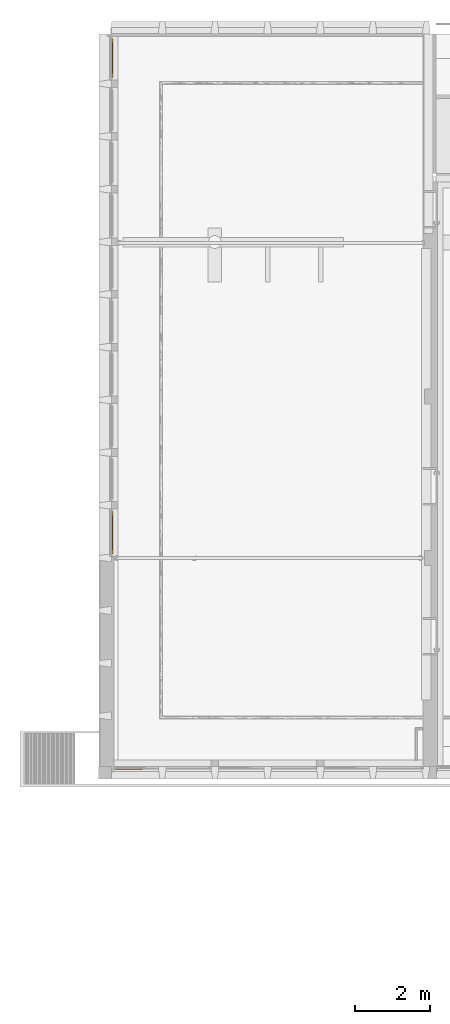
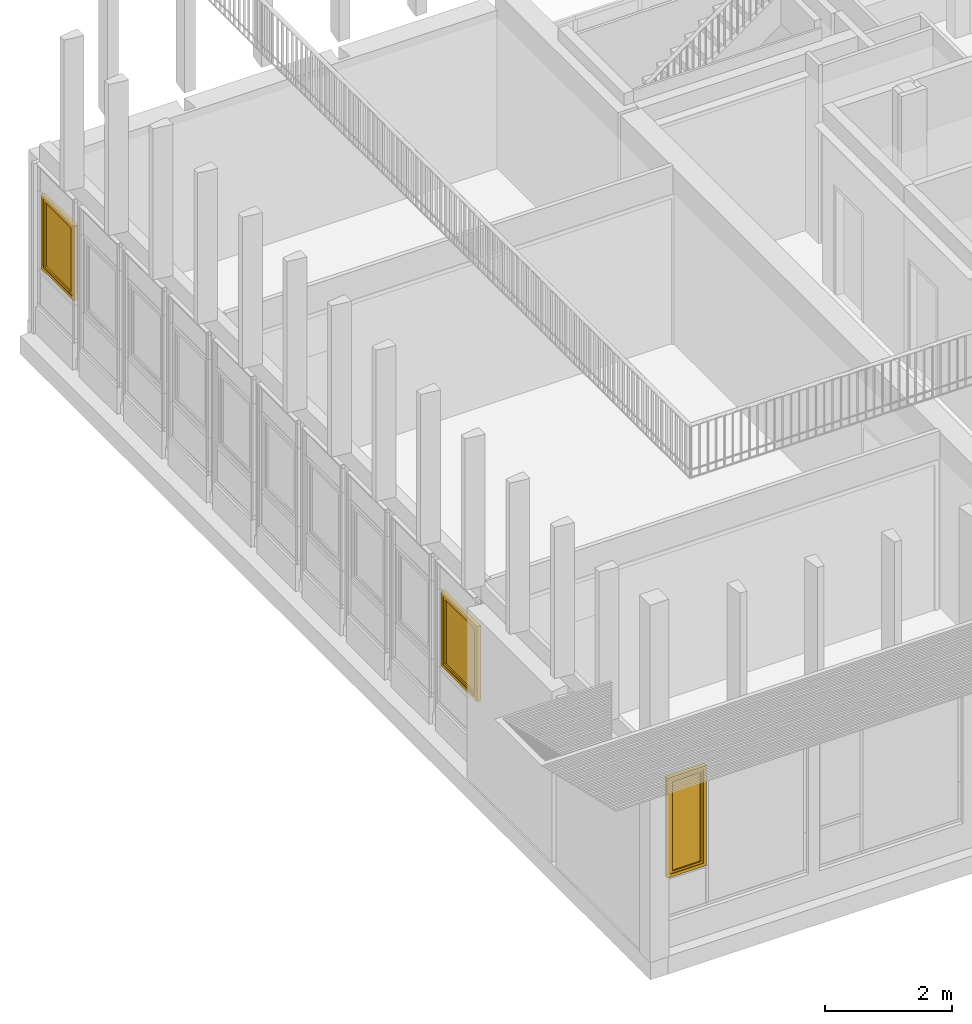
# One storey, part 52 of 65: 3 windows, 3 elements without a shape of their own.
"""IFC4 building model written with IfcOpenShell, lengths in metres."""

from ifc_helpers import new_model, entity, si_unit, converted_unit, derived_unit, direction, frame, origin, place, context, subcontext, project, spatial, polygons, source, transform, mapped, material, material_list, constituent, constituent_set, type_object, type_shapes, element, aggregate, save


model = new_model("IFC4")

# Units and contexts
model_context = context("Model", 3, precision=1e-05, world=origin(), true_north=direction((6.12303176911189e-17, 1.0)))
body_context = subcontext(model_context, "Body", "Model", "MODEL_VIEW")
ifc_project = project(units=[si_unit("LENGTHUNIT", "METRE"), si_unit("AREAUNIT", "SQUARE_METRE"), si_unit("VOLUMEUNIT", "CUBIC_METRE"), converted_unit("PLANEANGLEUNIT", "DEGREE", entity("IfcRatioMeasure", 0.0174532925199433), si_unit("PLANEANGLEUNIT", "RADIAN"), dimensions=[0, 0, 0, 0, 0, 0, 0]), si_unit("MASSUNIT", "GRAM", prefix="KILO"), derived_unit("MASSDENSITYUNIT", [(si_unit("MASSUNIT", "GRAM", prefix="KILO"), 1), (si_unit("LENGTHUNIT", "METRE"), -3)]), derived_unit("MOMENTOFINERTIAUNIT", [(si_unit("LENGTHUNIT", "METRE"), 4)]), si_unit("TIMEUNIT", "SECOND"), si_unit("FREQUENCYUNIT", "HERTZ"), si_unit("THERMODYNAMICTEMPERATUREUNIT", "DEGREE_CELSIUS"), derived_unit("THERMALTRANSMITTANCEUNIT", [(si_unit("MASSUNIT", "GRAM", prefix="KILO"), 1), (si_unit("THERMODYNAMICTEMPERATUREUNIT", "KELVIN"), -1), (si_unit("TIMEUNIT", "SECOND"), -3)]), derived_unit("VOLUMETRICFLOWRATEUNIT", [(si_unit("LENGTHUNIT", "METRE"), 3), (si_unit("TIMEUNIT", "SECOND"), -1)]), si_unit("ELECTRICCURRENTUNIT", "AMPERE"), si_unit("ELECTRICVOLTAGEUNIT", "VOLT"), si_unit("POWERUNIT", "WATT"), si_unit("FORCEUNIT", "NEWTON", prefix="KILO"), si_unit("ILLUMINANCEUNIT", "LUX"), si_unit("LUMINOUSFLUXUNIT", "LUMEN"), si_unit("LUMINOUSINTENSITYUNIT", "CANDELA"), derived_unit("USERDEFINED", [(si_unit("MASSUNIT", "GRAM", prefix="KILO"), -1), (si_unit("LENGTHUNIT", "METRE"), -2), (si_unit("TIMEUNIT", "SECOND"), 3), (si_unit("LUMINOUSFLUXUNIT", "LUMEN"), 1)]), derived_unit("LINEARVELOCITYUNIT", [(si_unit("LENGTHUNIT", "METRE"), 1), (si_unit("TIMEUNIT", "SECOND"), -1)]), si_unit("PRESSUREUNIT", "PASCAL"), derived_unit("USERDEFINED", [(si_unit("LENGTHUNIT", "METRE"), -2), (si_unit("MASSUNIT", "GRAM", prefix="KILO"), 1), (si_unit("TIMEUNIT", "SECOND"), -2)]), derived_unit("LINEARFORCEUNIT", [(si_unit("MASSUNIT", "GRAM", prefix="KILO"), 1), (si_unit("LENGTHUNIT", "METRE"), 1), (si_unit("TIMEUNIT", "SECOND"), -2), (si_unit("LENGTHUNIT", "METRE"), -1)]), derived_unit("PLANARFORCEUNIT", [(si_unit("MASSUNIT", "GRAM", prefix="KILO"), 1), (si_unit("LENGTHUNIT", "METRE"), 1), (si_unit("TIMEUNIT", "SECOND"), -2), (si_unit("LENGTHUNIT", "METRE"), -2)])], contexts=[model_context])

# Site, building, storey
site_placement = place(None, origin())
site = spatial("IfcSite", under=ifc_project, at=site_placement, Name="Default", CompositionType="ELEMENT")
building_placement = place(site_placement, origin())
building = spatial("IfcBuilding", under=site, at=building_placement, Name="HOTEL CONSULAIRE BOULOGNE SUR MER", CompositionType="ELEMENT")
storey_placement = place(building_placement, origin())
storey = spatial("IfcBuildingStorey", under=building, at=storey_placement, Name="Niveau 0", CompositionType="ELEMENT", Elevation=1.31981936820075e-13)

# Curtain wall, window
curtain_wall_type = type_object("IfcCurtainWallType", Name="Mur-rideau:Simple panneau", PredefinedType="NOTDEFINED")
curtain_wall_1_placement = place(storey_placement, origin())
curtain_wall_1 = element("IfcCurtainWall", 1, at=curtain_wall_1_placement, inside=storey, type_object=curtain_wall_type, Name="Mur-rideau:Simple panneau", ObjectType="Mur-rideau:Simple panneau", PredefinedType="NOTDEFINED")
ifc_material_1 = material(Name="PVC - Blanc", Category="Plastique")
ifc_constituent_1 = constituent(ifc_material_1, Name="PVC - Blanc", Category="Matériaux")
ifc_material_2 = material(Name="Fenêtre - Vitrage", Category="Verre")
ifc_constituent_2 = constituent(ifc_material_2, Name="Fenêtre - Vitrage", Category="Matériaux")
ifc_constituent_set_1 = constituent_set(constituents=[ifc_constituent_1, ifc_constituent_2], Name="MaterialConstituentSet")
ifc_material_list_1 = material_list([ifc_material_1, ifc_material_1])
window_type_1 = type_object("IfcWindowType", Name="MR 1 Vantail:MR 1 Vantail", PartitioningType="NOTDEFINED", PredefinedType="WINDOW", material=ifc_material_list_1)
shared_shape_1 = source(origin(), body_context, "Body", "Tessellation", [
    polygons([(-0.492446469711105, -0.0492408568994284, 0.472033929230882), (-0.481154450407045, -0.0492408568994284, 0.472033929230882), (-0.479766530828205, -0.0492408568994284, 0.470646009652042), (-0.479766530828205, -0.0492408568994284, 0.459332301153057), (-0.481132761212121, -0.0492408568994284, 0.457966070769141), (-0.49246815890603, -0.0492408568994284, 0.457966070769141), (-0.493834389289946, -0.0492408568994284, 0.459332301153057), (-0.493834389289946, -0.0492408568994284, 0.470646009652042), (-0.493834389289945, -0.0615795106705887, 0.470646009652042), (-0.492446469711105, -0.0621544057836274, 0.472033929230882), (-0.493834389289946, -0.0568932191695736, 0.459332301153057), (-0.493834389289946, -0.063573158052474, 0.452652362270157), (-0.493834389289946, -0.0635731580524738, 0.370000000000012), (-0.493834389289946, -0.0748868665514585, 0.370000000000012), (-0.493834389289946, -0.0748868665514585, 0.457338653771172), (-0.49246815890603, -0.0563273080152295, 0.457966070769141), (-0.481132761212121, -0.0563273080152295, 0.457966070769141), (-0.479766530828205, -0.0568932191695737, 0.459332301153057), (-0.479766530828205, -0.0615795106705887, 0.470646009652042), (-0.479766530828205, -0.0748868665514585, 0.457338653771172), (-0.479766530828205, -0.0748868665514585, 0.370000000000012), (-0.479766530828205, -0.0635731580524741, 0.370000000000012), (-0.479766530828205, -0.0635731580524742, 0.452652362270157), (-0.481154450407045, -0.0621544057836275, 0.472033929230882), (-0.492446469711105, -0.0762747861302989, 0.457913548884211), (-0.49246815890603, -0.0622069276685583, 0.452086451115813), (-0.481132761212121, -0.0622069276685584, 0.452086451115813), (-0.481154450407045, -0.0762747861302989, 0.457913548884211), (-0.492446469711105, -0.0762747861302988, 0.370000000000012), (-0.49246815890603, -0.0622069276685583, 0.370000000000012), (-0.481132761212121, -0.0622069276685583, 0.370000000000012), (-0.481154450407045, -0.0762747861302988, 0.370000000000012)], [[[6, 7, 8, 1, 2, 3, 4, 5]], [[30, 26, 27, 31]], [[9, 10, 1, 8]], [[11, 12, 13, 14, 15, 9, 8, 7]], [[16, 11, 7, 6]], [[16, 6, 5, 17]], [[31, 22, 21, 32, 29, 14, 13, 30]], [[17, 5, 4, 18]], [[3, 19, 20, 21, 22, 23, 18, 4]], [[19, 3, 2, 24]], [[24, 2, 1, 10]], [[15, 25, 10, 9]], [[26, 12, 11, 16]], [[27, 26, 16, 17]], [[27, 17, 18, 23]], [[20, 19, 24, 28]], [[28, 24, 10, 25]], [[29, 25, 15, 14]], [[13, 12, 26, 30]], [[22, 31, 27, 23]], [[32, 21, 20, 28]], [[32, 28, 25, 29]]], closed=True),
    polygons([(-0.493800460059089, -0.0432408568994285, 0.490000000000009), (-0.479800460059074, -0.0432408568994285, 0.490000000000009), (-0.474800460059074, -0.0432408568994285, 0.48500000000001), (-0.474800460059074, -0.0432408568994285, 0.414999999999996), (-0.479800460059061, -0.0432408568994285, 0.410000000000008), (-0.493800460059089, -0.0432408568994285, 0.410000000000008), (-0.498800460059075, -0.0432408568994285, 0.414999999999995), (-0.498800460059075, -0.0432408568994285, 0.48500000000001), (-0.493800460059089, -0.0492408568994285, 0.490000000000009), (-0.498800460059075, -0.0492408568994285, 0.48500000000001), (-0.498800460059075, -0.0492408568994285, 0.414999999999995), (-0.493800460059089, -0.0492408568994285, 0.410000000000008), (-0.479800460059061, -0.0492408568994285, 0.410000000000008), (-0.474800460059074, -0.0492408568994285, 0.414999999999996), (-0.474800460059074, -0.0492408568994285, 0.48500000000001), (-0.479800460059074, -0.0492408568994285, 0.490000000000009)], [[[2, 3, 4, 5, 6, 7, 8, 1]], [[13, 14, 15, 16, 9, 10, 11, 12]], [[9, 1, 8, 10]], [[10, 8, 7, 11]], [[11, 7, 6, 12]], [[12, 6, 5, 13]], [[13, 5, 4, 14]], [[15, 14, 4, 3]], [[15, 3, 2, 16]], [[16, 2, 1, 9]]], closed=True),
    polygons([(0.46180046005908, -0.0192408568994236, 1.334), (-0.46180046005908, -0.0192408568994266, 1.334), (-0.46180046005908, -0.0192408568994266, 0.1), (0.46180046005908, -0.0192408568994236, 0.1), (0.46180046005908, -0.00724085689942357, 1.334), (0.46180046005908, -0.00724085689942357, 0.1), (-0.46180046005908, -0.00724085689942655, 0.1), (-0.46180046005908, -0.00724085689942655, 1.334)], [[[4, 1, 2, 3]], [[7, 8, 5, 6]], [[2, 1, 5, 8]], [[3, 2, 8, 7]], [[4, 3, 7, 6]], [[1, 4, 6, 5]]], closed=True),
    polygons([(-0.51180046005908, 0.0167591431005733, 1.384), (-0.51180046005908, -0.043240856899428, 1.384), (0.51180046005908, -0.043240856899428, 1.384), (0.511800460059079, 0.0167591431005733, 1.384), (-0.46180046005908, -0.043240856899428, 1.334), (-0.46180046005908, 0.0167591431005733, 1.334), (0.46180046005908, 0.0167591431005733, 1.334), (0.46180046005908, -0.043240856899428, 1.334), (0.51180046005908, -0.043240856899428, 0.0500000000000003), (0.51180046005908, 0.0167591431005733, 0.0500000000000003), (0.46180046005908, 0.0167591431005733, 0.1), (0.46180046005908, -0.043240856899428, 0.1), (-0.51180046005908, -0.043240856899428, 0.0500000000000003), (-0.51180046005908, 0.0167591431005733, 0.0500000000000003), (-0.46180046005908, 0.0167591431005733, 0.1), (-0.46180046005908, -0.043240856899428, 0.1)], [[[1, 2, 3, 4]], [[12, 11, 15, 16]], [[5, 6, 7, 8]], [[10, 9, 13, 14]], [[4, 3, 9, 10]], [[16, 15, 6, 5]], [[8, 7, 11, 12]], [[14, 13, 2, 1]], [[9, 3, 2, 13], [16, 5, 8, 12]], [[14, 1, 4, 10], [11, 7, 6, 15]]], closed=True),
    polygons([(-0.50180046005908, 0.016759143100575, 1.374), (-0.50180046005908, 0.0267591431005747, 1.374), (0.50180046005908, 0.0267591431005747, 1.374), (0.50180046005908, 0.016759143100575, 1.374), (-0.511800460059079, -0.0432408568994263, 1.384), (-0.511800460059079, 0.016759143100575, 1.384), (0.511800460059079, 0.016759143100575, 1.384), (0.511800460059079, -0.0432408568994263, 1.384), (-0.561800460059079, 0.0267591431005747, 1.434), (-0.561800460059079, -0.0432408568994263, 1.434), (0.561800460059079, -0.0432408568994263, 1.434), (0.561800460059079, 0.0267591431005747, 1.434), (0.50180046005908, 0.0267591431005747, 0.0600000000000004), (0.50180046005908, 0.016759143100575, 0.0600000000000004), (0.511800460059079, 0.016759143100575, 0.0500000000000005), (0.511800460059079, -0.0432408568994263, 0.0500000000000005), (0.561800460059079, -0.0432408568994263, 5.41433564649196e-16), (0.561800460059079, 0.0267591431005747, 5.41433564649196e-16), (-0.50180046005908, 0.0267591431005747, 0.0600000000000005), (-0.50180046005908, 0.016759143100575, 0.0600000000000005), (-0.511800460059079, 0.016759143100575, 0.0500000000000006), (-0.511800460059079, -0.0432408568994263, 0.0500000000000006), (-0.561800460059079, -0.0432408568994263, 5.41433564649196e-16), (-0.561800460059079, 0.0267591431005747, 5.41433564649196e-16)], [[[1, 2, 3, 4]], [[5, 6, 7, 8]], [[18, 17, 23, 24]], [[9, 10, 11, 12]], [[14, 13, 19, 20]], [[16, 15, 21, 22]], [[4, 3, 13, 14]], [[8, 7, 15, 16]], [[24, 23, 10, 9]], [[12, 11, 17, 18]], [[20, 19, 2, 1]], [[22, 21, 6, 5]], [[24, 9, 12, 18], [13, 3, 2, 19]], [[15, 7, 6, 21], [20, 1, 4, 14]], [[17, 11, 10, 23], [22, 5, 8, 16]]], closed=True),
])
type_shapes(window_type_1, [shared_shape_1])
window_1_placement = place(curtain_wall_1_placement, frame((-13.7900998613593, -23.3432503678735, 1.0419999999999), z_axis=(0.0, 0.0, 1.0), x_axis=(0.0, 1.0, 0.0)))
window_1 = element("IfcWindow", 2, at=window_1_placement, type_object=window_type_1, material=ifc_constituent_set_1, Name="MR 1 Vantail:MR 1 Vantail", ObjectType="MR 1 Vantail:MR 1 Vantail", OverallHeight=1.434, OverallWidth=1.12360092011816, PartitioningType="NOTDEFINED", PredefinedType="WINDOW", context=body_context, shape_type="MappedRepresentation", body=[
    mapped(shared_shape_1, transform((0.0, 0.0, 0.0), scale=1.0)),
])
aggregate(curtain_wall_1, [window_1])

curtain_wall_2_placement = place(storey_placement, origin())
curtain_wall_2 = element("IfcCurtainWall", 3, at=curtain_wall_2_placement, inside=storey, type_object=curtain_wall_type, Name="Mur-rideau:Simple panneau", ObjectType="Mur-rideau:Simple panneau", PredefinedType="NOTDEFINED")
ifc_constituent_3 = constituent(ifc_material_1, Name="PVC - Blanc", Category="Matériaux")
ifc_constituent_4 = constituent(ifc_material_2, Name="Fenêtre - Vitrage", Category="Matériaux")
ifc_constituent_set_2 = constituent_set(constituents=[ifc_constituent_3, ifc_constituent_4], Name="MaterialConstituentSet")
ifc_material_list_2 = material_list([ifc_material_1, ifc_material_1])
window_type_2 = type_object("IfcWindowType", Name="MR 1 Vantail:MR 1 Vantail", PartitioningType="NOTDEFINED", PredefinedType="WINDOW", material=ifc_material_list_2)
shared_shape_2 = source(origin(), body_context, "Body", "Tessellation", [
    polygons([(-0.441208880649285, -0.0492408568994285, 0.472033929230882), (-0.429916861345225, -0.0492408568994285, 0.472033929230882), (-0.428528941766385, -0.0492408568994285, 0.470646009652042), (-0.428528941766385, -0.0492408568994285, 0.459332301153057), (-0.4298951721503, -0.0492408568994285, 0.457966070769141), (-0.44123056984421, -0.0492408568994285, 0.457966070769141), (-0.442596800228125, -0.0492408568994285, 0.459332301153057), (-0.442596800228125, -0.0492408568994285, 0.470646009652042), (-0.442596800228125, -0.0615795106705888, 0.470646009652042), (-0.441208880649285, -0.0621544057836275, 0.472033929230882), (-0.442596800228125, -0.0568932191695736, 0.459332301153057), (-0.442596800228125, -0.0635731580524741, 0.452652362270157), (-0.442596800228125, -0.0635731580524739, 0.370000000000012), (-0.442596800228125, -0.0748868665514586, 0.370000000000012), (-0.442596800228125, -0.0748868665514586, 0.457338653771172), (-0.44123056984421, -0.0563273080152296, 0.457966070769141), (-0.4298951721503, -0.0563273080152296, 0.457966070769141), (-0.428528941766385, -0.0568932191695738, 0.459332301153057), (-0.428528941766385, -0.0615795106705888, 0.470646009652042), (-0.428528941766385, -0.0748868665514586, 0.457338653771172), (-0.428528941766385, -0.0748868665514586, 0.370000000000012), (-0.428528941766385, -0.0635731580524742, 0.370000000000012), (-0.428528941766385, -0.0635731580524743, 0.452652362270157), (-0.429916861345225, -0.0621544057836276, 0.472033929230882), (-0.441208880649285, -0.076274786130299, 0.457913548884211), (-0.44123056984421, -0.0622069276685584, 0.452086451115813), (-0.4298951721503, -0.0622069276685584, 0.452086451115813), (-0.429916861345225, -0.0762747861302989, 0.457913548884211), (-0.441208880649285, -0.0762747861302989, 0.370000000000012), (-0.44123056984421, -0.0622069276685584, 0.370000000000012), (-0.4298951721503, -0.0622069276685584, 0.370000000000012), (-0.429916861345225, -0.0762747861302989, 0.370000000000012)], [[[6, 7, 8, 1, 2, 3, 4, 5]], [[30, 26, 27, 31]], [[9, 10, 1, 8]], [[11, 12, 13, 14, 15, 9, 8, 7]], [[16, 11, 7, 6]], [[16, 6, 5, 17]], [[31, 22, 21, 32, 29, 14, 13, 30]], [[17, 5, 4, 18]], [[3, 19, 20, 21, 22, 23, 18, 4]], [[19, 3, 2, 24]], [[24, 2, 1, 10]], [[15, 25, 10, 9]], [[26, 12, 11, 16]], [[27, 26, 16, 17]], [[27, 17, 18, 23]], [[20, 19, 24, 28]], [[28, 24, 10, 25]], [[29, 25, 15, 14]], [[13, 12, 26, 30]], [[22, 31, 27, 23]], [[32, 21, 20, 28]], [[32, 28, 25, 29]]], closed=True),
    polygons([(-0.442562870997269, -0.0432408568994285, 0.490000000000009), (-0.428562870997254, -0.0432408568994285, 0.490000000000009), (-0.423562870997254, -0.0432408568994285, 0.48500000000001), (-0.423562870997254, -0.0432408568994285, 0.414999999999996), (-0.428562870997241, -0.0432408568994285, 0.410000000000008), (-0.442562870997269, -0.0432408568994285, 0.410000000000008), (-0.447562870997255, -0.0432408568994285, 0.414999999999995), (-0.447562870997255, -0.0432408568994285, 0.48500000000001), (-0.442562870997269, -0.0492408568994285, 0.490000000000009), (-0.447562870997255, -0.0492408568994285, 0.48500000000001), (-0.447562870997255, -0.0492408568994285, 0.414999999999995), (-0.442562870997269, -0.0492408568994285, 0.410000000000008), (-0.428562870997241, -0.0492408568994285, 0.410000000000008), (-0.423562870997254, -0.0492408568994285, 0.414999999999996), (-0.423562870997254, -0.0492408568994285, 0.48500000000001), (-0.428562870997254, -0.0492408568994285, 0.490000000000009)], [[[2, 3, 4, 5, 6, 7, 8, 1]], [[13, 14, 15, 16, 9, 10, 11, 12]], [[9, 1, 8, 10]], [[10, 8, 7, 11]], [[11, 7, 6, 12]], [[12, 6, 5, 13]], [[13, 5, 4, 14]], [[15, 14, 4, 3]], [[15, 3, 2, 16]], [[16, 2, 1, 9]]], closed=True),
    polygons([(0.410562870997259, -0.0192408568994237, 1.334), (-0.41056287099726, -0.0192408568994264, 1.334), (-0.41056287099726, -0.0192408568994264, 0.1), (0.410562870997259, -0.0192408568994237, 0.1), (0.410562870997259, -0.00724085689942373, 1.334), (0.410562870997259, -0.00724085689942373, 0.1), (-0.41056287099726, -0.00724085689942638, 0.1), (-0.41056287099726, -0.00724085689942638, 1.334)], [[[4, 1, 2, 3]], [[7, 8, 5, 6]], [[2, 1, 5, 8]], [[3, 2, 8, 7]], [[4, 3, 7, 6]], [[1, 4, 6, 5]]], closed=True),
    polygons([(-0.46056287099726, 0.0167591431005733, 1.384), (-0.46056287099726, -0.043240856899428, 1.384), (0.460562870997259, -0.043240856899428, 1.384), (0.460562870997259, 0.0167591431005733, 1.384), (-0.41056287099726, -0.043240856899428, 1.334), (-0.41056287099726, 0.0167591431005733, 1.334), (0.41056287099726, 0.0167591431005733, 1.334), (0.41056287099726, -0.043240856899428, 1.334), (0.460562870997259, -0.043240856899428, 0.0500000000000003), (0.460562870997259, 0.0167591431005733, 0.0500000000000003), (0.41056287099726, 0.0167591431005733, 0.1), (0.41056287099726, -0.043240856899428, 0.1), (-0.46056287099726, -0.043240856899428, 0.0500000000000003), (-0.460562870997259, 0.0167591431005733, 0.0500000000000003), (-0.41056287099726, 0.0167591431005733, 0.1), (-0.41056287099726, -0.043240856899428, 0.1)], [[[1, 2, 3, 4]], [[12, 11, 15, 16]], [[5, 6, 7, 8]], [[10, 9, 13, 14]], [[4, 3, 9, 10]], [[16, 15, 6, 5]], [[8, 7, 11, 12]], [[14, 13, 2, 1]], [[9, 3, 2, 13], [16, 5, 8, 12]], [[14, 1, 4, 10], [11, 7, 6, 15]]], closed=True),
    polygons([(-0.450562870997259, 0.016759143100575, 1.374), (-0.450562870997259, 0.0267591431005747, 1.374), (0.450562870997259, 0.0267591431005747, 1.374), (0.450562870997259, 0.016759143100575, 1.374), (-0.460562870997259, -0.0432408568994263, 1.384), (-0.460562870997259, 0.016759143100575, 1.384), (0.460562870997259, 0.016759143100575, 1.384), (0.460562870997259, -0.0432408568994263, 1.384), (-0.510562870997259, 0.0267591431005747, 1.434), (-0.510562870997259, -0.0432408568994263, 1.434), (0.510562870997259, -0.0432408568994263, 1.434), (0.510562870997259, 0.0267591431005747, 1.434), (0.450562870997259, 0.0267591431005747, 0.0600000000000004), (0.450562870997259, 0.016759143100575, 0.0600000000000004), (0.460562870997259, 0.016759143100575, 0.0500000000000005), (0.460562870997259, -0.0432408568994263, 0.0500000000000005), (0.510562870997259, -0.0432408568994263, 5.41433564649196e-16), (0.510562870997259, 0.0267591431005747, 5.41433564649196e-16), (-0.450562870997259, 0.0267591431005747, 0.0600000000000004), (-0.450562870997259, 0.016759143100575, 0.0600000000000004), (-0.460562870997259, 0.016759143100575, 0.0500000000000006), (-0.460562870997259, -0.0432408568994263, 0.0500000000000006), (-0.510562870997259, -0.0432408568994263, 5.41433564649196e-16), (-0.510562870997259, 0.0267591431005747, 5.41433564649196e-16)], [[[1, 2, 3, 4]], [[5, 6, 7, 8]], [[18, 17, 23, 24]], [[9, 10, 11, 12]], [[14, 13, 19, 20]], [[16, 15, 21, 22]], [[4, 3, 13, 14]], [[8, 7, 15, 16]], [[24, 23, 10, 9]], [[12, 11, 17, 18]], [[20, 19, 2, 1]], [[22, 21, 6, 5]], [[24, 9, 12, 18], [13, 3, 2, 19]], [[15, 7, 6, 21], [20, 1, 4, 14]], [[17, 11, 10, 23], [22, 5, 8, 16]]], closed=True),
])
type_shapes(window_type_2, [shared_shape_2])
window_2_placement = place(curtain_wall_2_placement, frame((-13.7900998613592, -10.7308870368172, 1.0419999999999), z_axis=(0.0, 0.0, 1.0), x_axis=(0.0, 1.0, 0.0)))
window_2 = element("IfcWindow", 4, at=window_2_placement, type_object=window_type_2, material=ifc_constituent_set_2, Name="MR 1 Vantail:MR 1 Vantail", ObjectType="MR 1 Vantail:MR 1 Vantail", OverallHeight=1.434, OverallWidth=1.02112574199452, PartitioningType="NOTDEFINED", PredefinedType="WINDOW", context=body_context, shape_type="MappedRepresentation", body=[
    mapped(shared_shape_2, transform((0.0, 0.0, 0.0), scale=1.0)),
])
aggregate(curtain_wall_2, [window_2])

curtain_wall_3_placement = place(storey_placement, origin())
curtain_wall_3 = element("IfcCurtainWall", 5, at=curtain_wall_3_placement, inside=storey, type_object=curtain_wall_type, Name="Mur-rideau:Simple panneau", ObjectType="Mur-rideau:Simple panneau", PredefinedType="NOTDEFINED")
ifc_constituent_5 = constituent(ifc_material_1, Name="PVC - Blanc", Category="Matériaux")
ifc_constituent_6 = constituent(ifc_material_2, Name="Fenêtre - Vitrage", Category="Matériaux")
ifc_constituent_set_3 = constituent_set(constituents=[ifc_constituent_5, ifc_constituent_6], Name="MaterialConstituentSet")
ifc_material_list_3 = material_list([ifc_material_1, ifc_material_1])
window_type_3 = type_object("IfcWindowType", Name="MR 1 Vantail:MR 1 Vantail", PartitioningType="NOTDEFINED", PredefinedType="WINDOW", material=ifc_material_list_3)
shared_shape_3 = source(origin(), body_context, "Body", "Tessellation", [
    polygons([(-0.287830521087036, 0.0492408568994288, 0.472033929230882), (-0.289218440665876, 0.0492408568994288, 0.470646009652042), (-0.289218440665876, 0.0492408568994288, 0.459332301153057), (-0.287852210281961, 0.0492408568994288, 0.457966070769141), (-0.276516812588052, 0.0492408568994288, 0.457966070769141), (-0.275150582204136, 0.0492408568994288, 0.459332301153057), (-0.275150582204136, 0.0492408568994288, 0.470646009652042), (-0.276538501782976, 0.0492408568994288, 0.472033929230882), (-0.287830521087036, 0.0621544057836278, 0.472033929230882), (-0.289218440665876, 0.061579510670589, 0.470646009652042), (-0.289218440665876, 0.0748868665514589, 0.457338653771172), (-0.289218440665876, 0.0748868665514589, 0.370000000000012), (-0.289218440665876, 0.0635731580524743, 0.370000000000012), (-0.289218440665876, 0.0635731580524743, 0.452652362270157), (-0.289218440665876, 0.0568932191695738, 0.459332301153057), (-0.287852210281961, 0.0563273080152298, 0.457966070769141), (-0.276516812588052, 0.0563273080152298, 0.457966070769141), (-0.275150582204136, 0.0568932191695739, 0.459332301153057), (-0.275150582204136, 0.0635731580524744, 0.452652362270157), (-0.275150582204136, 0.0635731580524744, 0.370000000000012), (-0.275150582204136, 0.0748868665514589, 0.370000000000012), (-0.275150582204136, 0.0748868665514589, 0.457338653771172), (-0.275150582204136, 0.061579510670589, 0.470646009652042), (-0.276538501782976, 0.0621544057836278, 0.472033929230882), (-0.287830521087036, 0.0762747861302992, 0.457913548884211), (-0.287852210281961, 0.0622069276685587, 0.452086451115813), (-0.276516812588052, 0.0622069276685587, 0.452086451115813), (-0.276538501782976, 0.0762747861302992, 0.457913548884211), (-0.287830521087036, 0.0762747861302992, 0.370000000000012), (-0.276538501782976, 0.0762747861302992, 0.370000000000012), (-0.276516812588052, 0.0622069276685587, 0.370000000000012), (-0.287852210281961, 0.0622069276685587, 0.370000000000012)], [[[5, 6, 7, 8, 1, 2, 3, 4]], [[27, 26, 32, 31]], [[2, 1, 9, 10]], [[2, 10, 11, 12, 13, 14, 15, 3]], [[4, 3, 15, 16]], [[5, 4, 16, 17]], [[32, 13, 12, 29, 30, 21, 20, 31]], [[6, 5, 17, 18]], [[6, 18, 19, 20, 21, 22, 23, 7]], [[8, 7, 23, 24]], [[1, 8, 24, 9]], [[10, 9, 25, 11]], [[16, 15, 14, 26]], [[17, 16, 26, 27]], [[18, 17, 27, 19]], [[24, 23, 22, 28]], [[9, 24, 28, 25]], [[11, 25, 29, 12]], [[26, 14, 13, 32]], [[19, 27, 31, 20]], [[28, 22, 21, 30]], [[25, 28, 30, 29]]], closed=True),
    polygons([(-0.28918451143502, 0.0432408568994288, 0.490000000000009), (-0.294184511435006, 0.0432408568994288, 0.48500000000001), (-0.294184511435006, 0.0432408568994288, 0.414999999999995), (-0.28918451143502, 0.0432408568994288, 0.410000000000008), (-0.275184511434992, 0.0432408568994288, 0.410000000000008), (-0.270184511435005, 0.0432408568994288, 0.414999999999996), (-0.270184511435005, 0.0432408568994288, 0.48500000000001), (-0.275184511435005, 0.0432408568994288, 0.490000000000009), (-0.28918451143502, 0.0492408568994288, 0.490000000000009), (-0.275184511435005, 0.0492408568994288, 0.490000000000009), (-0.270184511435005, 0.0492408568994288, 0.48500000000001), (-0.270184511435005, 0.0492408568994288, 0.414999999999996), (-0.275184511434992, 0.0492408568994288, 0.410000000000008), (-0.28918451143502, 0.0492408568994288, 0.410000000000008), (-0.294184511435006, 0.0492408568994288, 0.414999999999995), (-0.294184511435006, 0.0492408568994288, 0.48500000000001)], [[[1, 2, 3, 4, 5, 6, 7, 8]], [[14, 15, 16, 9, 10, 11, 12, 13]], [[2, 1, 9, 16]], [[3, 2, 16, 15]], [[4, 3, 15, 14]], [[5, 4, 14, 13]], [[6, 5, 13, 12]], [[7, 6, 12, 11]], [[8, 7, 11, 10]], [[1, 8, 10, 9]]], closed=True),
    polygons([(0.257184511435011, 0.0192408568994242, 1.816), (0.257184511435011, 0.0192408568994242, 0.0999999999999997), (-0.257184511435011, 0.0192408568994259, 0.0999999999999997), (-0.257184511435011, 0.0192408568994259, 1.816), (0.257184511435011, 0.00724085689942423, 1.816), (-0.257184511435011, 0.00724085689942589, 1.816), (-0.257184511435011, 0.00724085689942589, 0.0999999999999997), (0.257184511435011, 0.00724085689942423, 0.0999999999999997)], [[[4, 1, 2, 3]], [[5, 6, 7, 8]], [[5, 1, 4, 6]], [[6, 4, 3, 7]], [[7, 3, 2, 8]], [[8, 2, 1, 5]]], closed=True),
    polygons([(-0.307184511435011, -0.0167591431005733, 1.866), (0.307184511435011, -0.0167591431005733, 1.866), (0.307184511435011, 0.043240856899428, 1.866), (-0.307184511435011, 0.043240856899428, 1.866), (-0.257184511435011, 0.043240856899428, 1.816), (0.257184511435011, 0.043240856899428, 1.816), (0.257184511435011, -0.0167591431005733, 1.816), (-0.257184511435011, -0.0167591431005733, 1.816), (0.307184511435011, -0.0167591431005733, 0.05), (0.307184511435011, 0.043240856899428, 0.05), (0.257184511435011, 0.043240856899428, 0.0999999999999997), (0.257184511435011, -0.0167591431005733, 0.0999999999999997), (-0.307184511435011, -0.0167591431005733, 0.05), (-0.307184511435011, 0.043240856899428, 0.05), (-0.257184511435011, 0.043240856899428, 0.0999999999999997), (-0.257184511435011, -0.0167591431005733, 0.0999999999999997)], [[[2, 3, 4, 1]], [[15, 16, 12, 11]], [[6, 7, 8, 5]], [[14, 10, 9, 13]], [[9, 10, 3, 2]], [[5, 8, 16, 15]], [[11, 12, 7, 6]], [[1, 4, 14, 13]], [[10, 14, 4, 3], [15, 11, 6, 5]], [[13, 9, 2, 1], [12, 16, 8, 7]]], closed=True),
    polygons([(-0.297184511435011, -0.016759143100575, 1.856), (0.297184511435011, -0.016759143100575, 1.856), (0.297184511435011, -0.0267591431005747, 1.856), (-0.297184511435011, -0.0267591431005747, 1.856), (-0.30718451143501, 0.0432408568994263, 1.866), (0.30718451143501, 0.0432408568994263, 1.866), (0.30718451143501, -0.016759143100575, 1.866), (-0.30718451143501, -0.016759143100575, 1.866), (-0.35718451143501, -0.0267591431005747, 1.916), (0.35718451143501, -0.0267591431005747, 1.916), (0.35718451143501, 0.0432408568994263, 1.916), (-0.35718451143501, 0.0432408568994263, 1.916), (0.29718451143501, -0.016759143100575, 0.0600000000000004), (0.29718451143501, -0.0267591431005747, 0.0600000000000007), (0.30718451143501, 0.0432408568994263, 0.0500000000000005), (0.30718451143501, -0.016759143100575, 0.0500000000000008), (0.35718451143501, -0.0267591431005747, 5.41433564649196e-16), (0.35718451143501, 0.0432408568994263, 5.41433564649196e-16), (-0.297184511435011, -0.016759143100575, 0.0600000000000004), (-0.297184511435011, -0.0267591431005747, 0.0600000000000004), (-0.30718451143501, 0.0432408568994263, 0.0500000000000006), (-0.30718451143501, -0.016759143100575, 0.0500000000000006), (-0.35718451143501, -0.0267591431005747, 5.41433564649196e-16), (-0.35718451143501, 0.0432408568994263, 5.41433564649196e-16)], [[[2, 3, 4, 1]], [[6, 7, 8, 5]], [[24, 18, 17, 23]], [[11, 12, 9, 10]], [[19, 20, 14, 13]], [[21, 22, 16, 15]], [[14, 3, 2, 13]], [[16, 7, 6, 15]], [[12, 24, 23, 9]], [[18, 11, 10, 17]], [[4, 20, 19, 1]], [[5, 8, 22, 21]], [[23, 17, 10, 9], [14, 20, 4, 3]], [[16, 22, 8, 7], [19, 13, 2, 1]], [[18, 24, 12, 11], [21, 15, 6, 5]]], closed=True),
])
type_shapes(window_type_3, [shared_shape_3])
window_3_placement = place(curtain_wall_3_placement, frame((-13.3221651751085, -29.6140671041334, 1.0839999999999)))
window_3 = element("IfcWindow", 6, at=window_3_placement, type_object=window_type_3, material=ifc_constituent_set_3, Name="MR 1 Vantail:MR 1 Vantail", ObjectType="MR 1 Vantail:MR 1 Vantail", OverallHeight=1.916, OverallWidth=0.714369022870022, PartitioningType="NOTDEFINED", PredefinedType="WINDOW", context=body_context, shape_type="MappedRepresentation", body=[
    mapped(shared_shape_3, transform((0.0, 0.0, 0.0), scale=1.0)),
])
aggregate(curtain_wall_3, [window_3])

save(model, "model.ifc")
